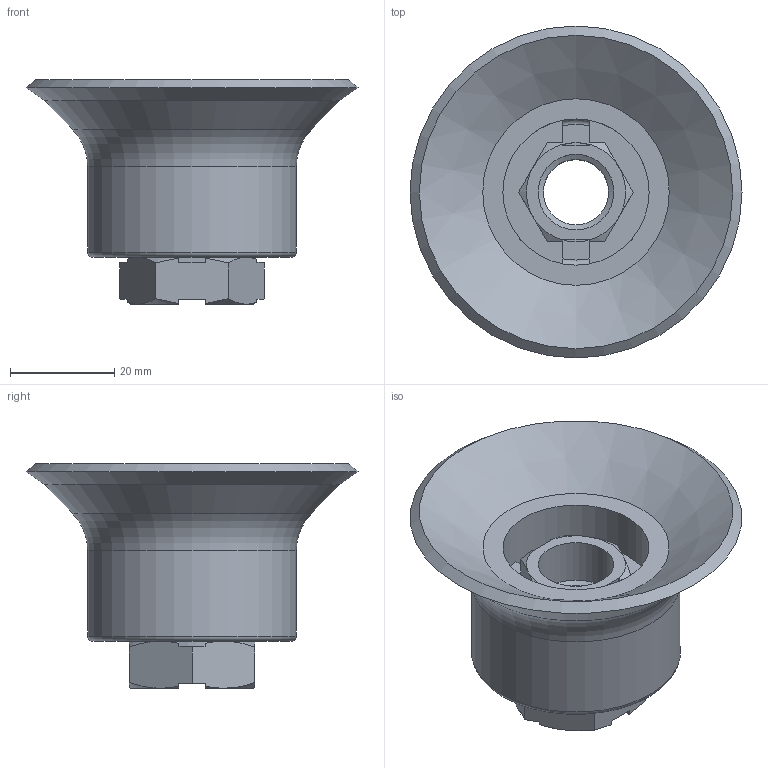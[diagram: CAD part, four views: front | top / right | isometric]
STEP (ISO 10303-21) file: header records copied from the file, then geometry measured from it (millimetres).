
FILE_DESCRIPTION(('STEP AP214'),'1');
FILE_NAME(').stp','2026-03-23T07:40:53',(' '),(' '),'Spatial InterOp 3D',' ',' ');
FILE_SCHEMA(('AUTOMOTIVE_DESIGN { 1 0 10303 214 1 1 1 1 }'));
Length unit declared in the file: millimetre
Products named in the file (5): LFK-M14-PKMG-60T; PKMG-60T-W; LFK-M14; NUT; FITTING
Assembly tree (4 placements, depth 3):
  LFK-M14-PKMG-60T
    PKMG-60T-W
    LFK-M14
      NUT
      FITTING
Bounding box: 63.58 x 63.58 x 43 mm (x, y, z)
Volume: 34691.8 mm3; surface area: 16476.3 mm2
Topology: 3 solids, 3 shells, 109 faces, 288 edges, 186 vertices
Faces by surface type: plane 55, cone 33, cylinder 18, torus 3
Full cylindrical faces by diameter (mm): 12.5 x2, 14.5 x1, 19 x1, 28 x1, 40 x1
Entity records: 4447 total; most frequent: CARTESIAN_POINT 829, ORIENTED_EDGE 542, DIRECTION 504, EDGE_CURVE 271, AXIS2_PLACEMENT_3D 186, VERTEX_POINT 183, LINE 132, VECTOR 132
